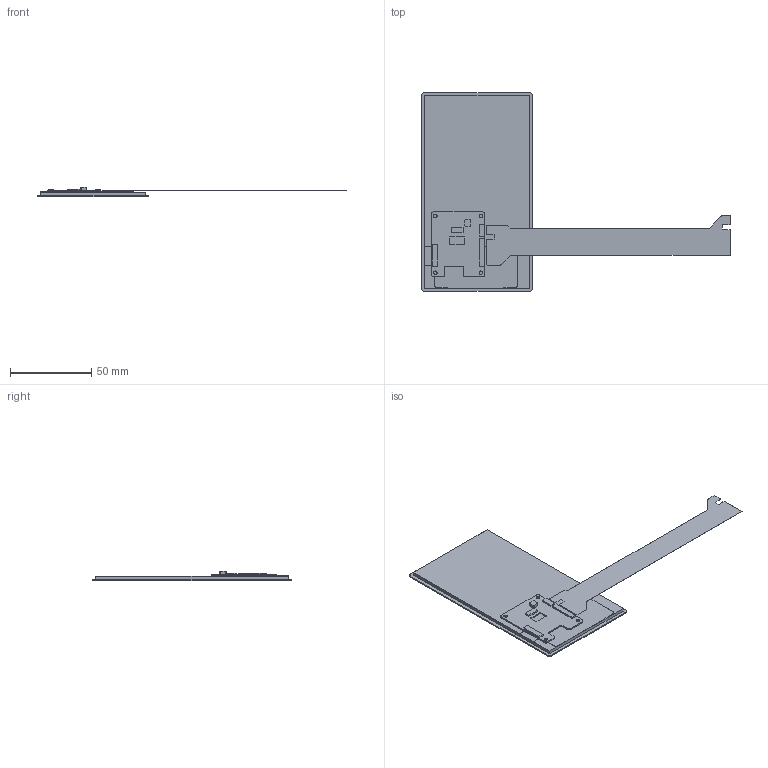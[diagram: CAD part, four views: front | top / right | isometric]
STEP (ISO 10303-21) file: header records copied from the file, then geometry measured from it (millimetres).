
FILE_DESCRIPTION (( 'STEP AP214' ), '1' );
FILE_NAME ('TS050_LCD_Module_FPC_Cable.STEP', '2019-09-17T04:25:51', ( '' ), ( '' ), 'SwSTEP 2.0', 'SolidWorks 2018', '' );
FILE_SCHEMA (( 'AUTOMOTIVE_DESIGN' ));
Length unit declared in the file: millimetre
Products named in the file (1): TS050_LCD_Module_FPC_Cable
Bounding box: 190.16 x 122.45 x 5.61 mm (x, y, z)
Volume: 22678.4 mm3; surface area: 44436.4 mm2
Topology: 11 solids, 11 shells, 148 faces, 378 edges, 252 vertices
Faces by surface type: plane 100, cylinder 48
Entity records: 4626 total; most frequent: CARTESIAN_POINT 779, DIRECTION 772, ORIENTED_EDGE 756, EDGE_CURVE 378, LINE 282, VECTOR 282, VERTEX_POINT 252, AXIS2_PLACEMENT_3D 245
